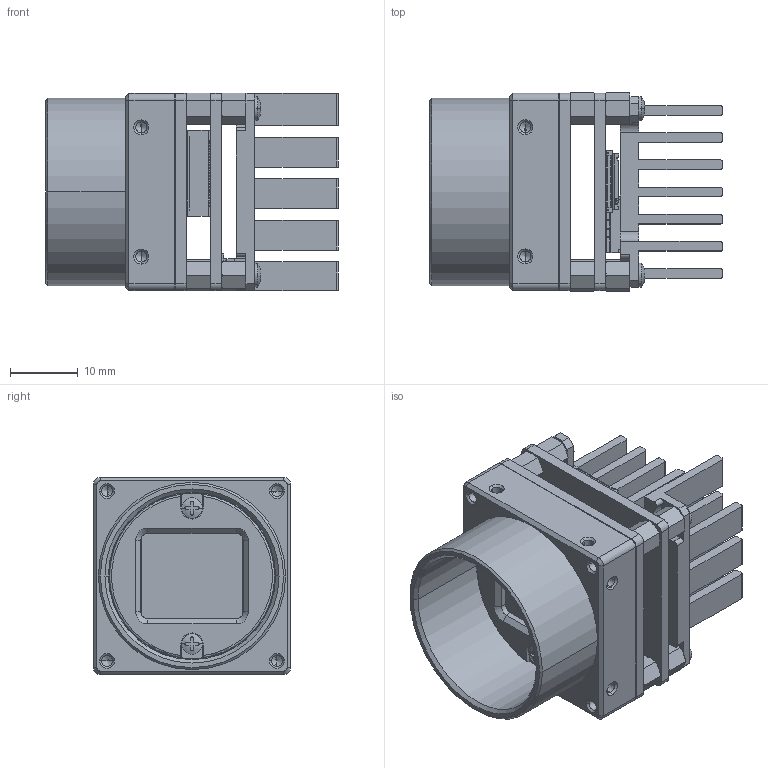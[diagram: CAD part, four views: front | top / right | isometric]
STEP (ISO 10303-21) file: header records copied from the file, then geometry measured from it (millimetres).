
FILE_DESCRIPTION((''),'2;1');
FILE_NAME('MV-CB050-11UC_ASM','2023-08-10T18:36:22',('fangzhiyong'),(''),'CREO PARAMETRIC BY PTC INC, 2020044','CREO PARAMETRIC BY PTC INC, 2020044','');
FILE_SCHEMA(('CONFIG_CONTROL_DESIGN'));
Products named in the file (3): MV-CB050-11UC-C; 101305235; MV-CB050-11UC_ASM
Assembly tree (2 placements, depth 2):
  MV-CB050-11UC_ASM
    MV-CB050-11UC-C
    101305235
Bounding box: 43.08 x 29.12 x 29.12 mm (x, y, z)
Volume: 13356.9 mm3; surface area: 14398 mm2
Topology: 2 solids, 58 shells, 4433 faces, 13207 edges, 8814 vertices
Faces by surface type: plane 2918, cylinder 1120, cone 191, bspline 140, torus 60, sphere 4
Entity records: 155511 total; most frequent: CARTESIAN_POINT 34514, ORIENTED_EDGE 26214, DIRECTION 24174, EDGE_CURVE 13163, VECTOR 9426, LINE 9426, VERTEX_POINT 8814, AXIS2_PLACEMENT_3D 7374
